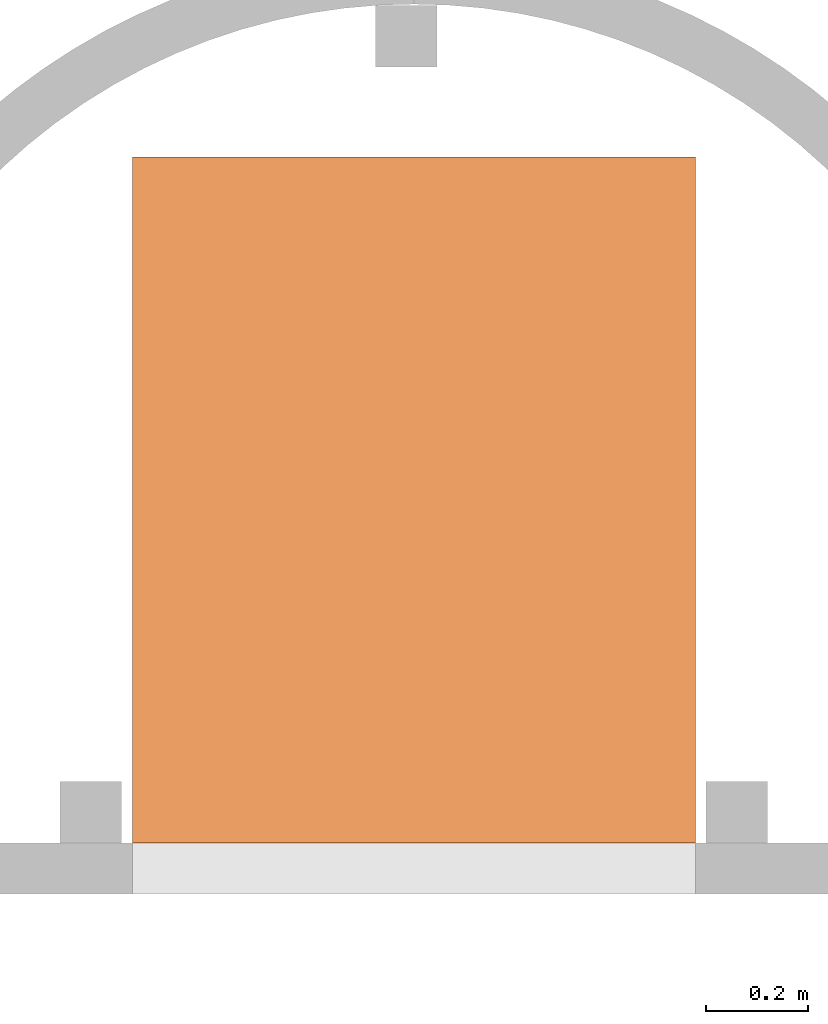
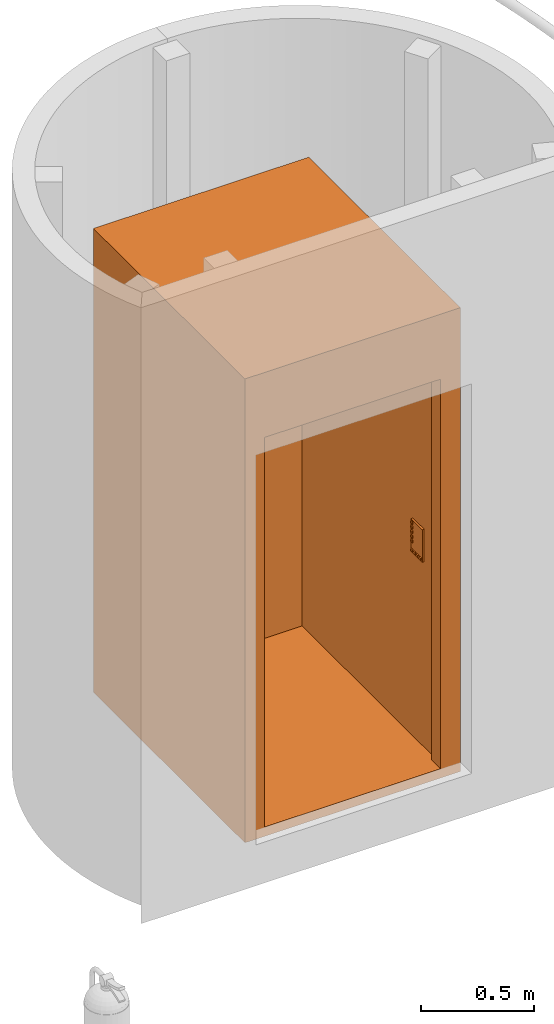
# One storey, part 6 of 6: 1 proxy.
"""IFC4 building model written with IfcOpenShell, lengths in millimetres."""

from ifc_helpers import new_model, entity, si_unit, converted_unit, derived_unit, direction, frame, origin_with_axes, place, context, subcontext, project, spatial, polygons, type_object, element, save


model = new_model("IFC4")

# Units and contexts
model_context = context("Model", 3, precision=0.01, world=origin_with_axes(), true_north=direction((0.0, 1.0)))
body_context = subcontext(model_context, "Body", "Model", "MODEL_VIEW")
ifc_project = project(units=[si_unit("LENGTHUNIT", "METRE", prefix="MILLI"), si_unit("AREAUNIT", "SQUARE_METRE"), si_unit("VOLUMEUNIT", "CUBIC_METRE"), converted_unit("PLANEANGLEUNIT", "DEGREE", entity("IfcPlaneAngleMeasure", 0.0174532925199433), si_unit("PLANEANGLEUNIT", "RADIAN"), dimensions=[0, 0, 0, 0, 0, 0, 0]), converted_unit("TIMEUNIT", "Year", entity("IfcTimeMeasure", 31557600.0), si_unit("TIMEUNIT", "SECOND"), dimensions=[0, 0, 1, 0, 0, 0, 0]), si_unit("MASSUNIT", "GRAM", prefix="KILO"), si_unit("THERMODYNAMICTEMPERATUREUNIT", "DEGREE_CELSIUS"), si_unit("LUMINOUSINTENSITYUNIT", "LUMEN"), si_unit("ENERGYUNIT", "JOULE", prefix="MEGA"), derived_unit("THERMALCONDUCTANCEUNIT", [(si_unit("POWERUNIT", "WATT"), 1), (si_unit("LENGTHUNIT", "METRE"), -1), (si_unit("THERMODYNAMICTEMPERATUREUNIT", "KELVIN"), -1)]), derived_unit("SPECIFICHEATCAPACITYUNIT", [(si_unit("ENERGYUNIT", "JOULE"), 1), (si_unit("MASSUNIT", "GRAM", prefix="KILO"), -1), (si_unit("THERMODYNAMICTEMPERATUREUNIT", "KELVIN"), -1)]), derived_unit("MASSDENSITYUNIT", [(si_unit("MASSUNIT", "GRAM", prefix="KILO"), 1), (si_unit("VOLUMEUNIT", "CUBIC_METRE"), -1)])], contexts=[model_context])

# Site, building, storey
site_placement = place(None, origin_with_axes())
site = spatial("IfcSite", under=ifc_project, at=site_placement, Name="Exteriér", CompositionType="ELEMENT")
building_placement = place(site_placement, origin_with_axes())
building = spatial("IfcBuilding", under=site, at=building_placement, Name="Univerzitní lezecké centrum", CompositionType="ELEMENT")
storey_placement = place(building_placement, origin_with_axes())
storey = spatial("IfcBuildingStorey", under=building, at=storey_placement, Name="1.NP", CompositionType="ELEMENT", Elevation=0.0)

# Proxy
building_element_proxy_type = type_object("IfcBuildingElementProxyType", Name="Výtah 24", PredefinedType="NOTDEFINED")
proxy_placement = place(storey_placement, frame((1499.835459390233, 3043.442993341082, 0.0), z_axis=(0.0, 0.0, 1.0), x_axis=(1.0, 0.0, 0.0)))
element("IfcBuildingElementProxy", 1, at=proxy_placement, inside=storey, type_object=building_element_proxy_type, Name="OV26", PredefinedType="NOTDEFINED", context=body_context, shape_type="Tessellation", body=[
    polygons([(1399.0, 270.0, 0.0), (1419.0, 270.0, 0.0), (1419.0, 1448.0, 0.0), (481.0000000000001, 1448.0, 0.0), (481.0000000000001, 270.0, 0.0), (501.0, 270.0, 0.0), (501.0, 190.0000000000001, 0.0), (401.0, 190.0000000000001, 0.0), (401.0, 1528.0, 0.0), (1499.0, 1528.0, 0.0), (1499.0, 190.0000000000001, 0.0), (1399.0, 190.0000000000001, 0.0), (481.0000000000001, 270.0, 2400.0), (1419.0, 270.0, 2400.0), (1399.0, 270.0, 2100.0), (501.0, 270.0, 2100.0), (1419.0, 1448.0, 2400.0), (481.0000000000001, 1448.0, 2400.0), (501.0, 190.0000000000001, 2100.0), (1399.0, 190.0000000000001, 2100.0), (1499.0, 190.0000000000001, 2400.0), (401.0, 190.0000000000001, 2400.0), (401.0, 1528.0, 2400.0), (1499.0, 1528.0, 2400.0)], [[[1, 2, 3, 4, 5, 6, 7, 8, 9, 10, 11, 12]], [[13, 14, 2, 1, 15, 16, 6, 5]], [[14, 17, 3, 2]], [[17, 18, 4, 3]], [[18, 13, 5, 4]], [[6, 16, 19, 7]], [[8, 7, 19, 20, 12, 11, 21, 22]], [[22, 23, 9, 8]], [[23, 24, 10, 9]], [[24, 21, 11, 10]], [[15, 1, 12, 20]], [[24, 23, 22, 21], [13, 18, 17, 14]], [[16, 15, 20, 19]]], closed=True),
    polygons([(401.0, 190.0, -50.0), (1499.0, 190.0, -50.0), (1499.0, 190.0, 0.0), (401.0, 190.0, 0.0), (401.0, 1528.0, -50.0), (1499.0, 1528.0, -50.0), (1499.0, 1528.0, 0.0), (401.0, 1528.0, 0.0)], [[[1, 2, 3, 4]], [[1, 5, 6, 2]], [[2, 6, 7, 3]], [[4, 3, 7, 8]], [[5, 1, 4, 8]], [[6, 5, 8, 7]]], closed=True),
    polygons([(401.0, 190.0, 2400.0), (1499.0, 190.0, 2400.0), (1499.0, 190.0, 2450.0), (401.0, 190.0, 2450.0), (401.0, 1528.0, 2400.0), (1499.0, 1528.0, 2400.0), (1499.0, 1528.0, 2450.0), (401.0, 1528.0, 2450.0)], [[[1, 2, 3, 4]], [[1, 5, 6, 2]], [[2, 6, 7, 3]], [[4, 3, 7, 8]], [[5, 1, 4, 8]], [[6, 5, 8, 7]]], closed=True),
    polygons([(1419.0, 370.0, 1000.0), (1419.0, 470.0000000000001, 1000.0), (1419.0, 470.0000000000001, 1175.0), (1419.0, 370.0, 1175.0), (1409.0, 370.0, 1000.0), (1409.0, 470.0000000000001, 1000.0), (1409.0, 470.0000000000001, 1175.0), (1409.0, 370.0, 1175.0)], [[[1, 2, 3, 4]], [[2, 1, 5, 6]], [[3, 2, 6, 7]], [[4, 3, 7, 8]], [[1, 4, 8, 5]], [[6, 5, 8, 7]]], closed=True),
    polygons([(1409.0, 450.4289321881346, 1005.428932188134), (1409.0, 450.4289321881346, 1019.571067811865), (1404.0, 451.8431457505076, 1018.156854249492), (1404.0, 451.8431457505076, 1006.843145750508), (1409.0, 464.5710678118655, 1005.428932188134), (1409.0, 464.5710678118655, 1019.571067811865), (1404.0, 463.1568542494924, 1018.156854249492), (1404.0, 463.1568542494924, 1006.843145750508)], [[[1, 2, 3, 4]], [[1, 5, 6, 2]], [[2, 6, 7, 3]], [[4, 3, 7, 8]], [[5, 1, 4, 8]], [[6, 5, 8, 7]]], closed=True),
    polygons([(1409.0, 425.4289321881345, 1005.428932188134), (1409.0, 425.4289321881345, 1019.571067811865), (1404.0, 426.8431457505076, 1018.156854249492), (1404.0, 426.8431457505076, 1006.843145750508), (1409.0, 439.5710678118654, 1005.428932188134), (1409.0, 439.5710678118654, 1019.571067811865), (1404.0, 438.1568542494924, 1018.156854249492), (1404.0, 438.1568542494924, 1006.843145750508)], [[[1, 2, 3, 4]], [[1, 5, 6, 2]], [[2, 6, 7, 3]], [[4, 3, 7, 8]], [[5, 1, 4, 8]], [[6, 5, 8, 7]]], closed=True),
    polygons([(1409.0, 400.4289321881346, 1005.428932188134), (1409.0, 400.4289321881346, 1019.571067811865), (1404.0, 401.8431457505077, 1018.156854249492), (1404.0, 401.8431457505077, 1006.843145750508), (1409.0, 414.5710678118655, 1005.428932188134), (1409.0, 414.5710678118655, 1019.571067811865), (1404.0, 413.1568542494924, 1018.156854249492), (1404.0, 413.1568542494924, 1006.843145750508)], [[[1, 2, 3, 4]], [[1, 5, 6, 2]], [[2, 6, 7, 3]], [[4, 3, 7, 8]], [[5, 1, 4, 8]], [[6, 5, 8, 7]]], closed=True),
    polygons([(1409.0, 375.4289321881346, 1005.428932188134), (1409.0, 375.4289321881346, 1019.571067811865), (1404.0, 376.8431457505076, 1018.156854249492), (1404.0, 376.8431457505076, 1006.843145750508), (1409.0, 389.5710678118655, 1005.428932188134), (1409.0, 389.5710678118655, 1019.571067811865), (1404.0, 388.1568542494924, 1018.156854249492), (1404.0, 388.1568542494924, 1006.843145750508)], [[[1, 2, 3, 4]], [[1, 5, 6, 2]], [[2, 6, 7, 3]], [[4, 3, 7, 8]], [[5, 1, 4, 8]], [[6, 5, 8, 7]]], closed=True),
    polygons([(1409.0, 450.4289321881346, 1155.428932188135), (1409.0, 450.4289321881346, 1169.571067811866), (1404.0, 451.8431457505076, 1168.156854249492), (1404.0, 451.8431457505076, 1156.843145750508), (1409.0, 464.5710678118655, 1155.428932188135), (1409.0, 464.5710678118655, 1169.571067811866), (1404.0, 463.1568542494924, 1168.156854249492), (1404.0, 463.1568542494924, 1156.843145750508)], [[[1, 2, 3, 4]], [[1, 5, 6, 2]], [[2, 6, 7, 3]], [[4, 3, 7, 8]], [[5, 1, 4, 8]], [[6, 5, 8, 7]]], closed=True),
    polygons([(1409.0, 450.4289321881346, 1130.428932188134), (1409.0, 450.4289321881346, 1144.571067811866), (1404.0, 451.8431457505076, 1143.156854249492), (1404.0, 451.8431457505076, 1131.843145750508), (1409.0, 464.5710678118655, 1130.428932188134), (1409.0, 464.5710678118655, 1144.571067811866), (1404.0, 463.1568542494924, 1143.156854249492), (1404.0, 463.1568542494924, 1131.843145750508)], [[[1, 2, 3, 4]], [[1, 5, 6, 2]], [[2, 6, 7, 3]], [[4, 3, 7, 8]], [[5, 1, 4, 8]], [[6, 5, 8, 7]]], closed=True),
    polygons([(1409.0, 450.4289321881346, 1105.428932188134), (1409.0, 450.4289321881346, 1119.571067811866), (1404.0, 451.8431457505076, 1118.156854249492), (1404.0, 451.8431457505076, 1106.843145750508), (1409.0, 464.5710678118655, 1105.428932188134), (1409.0, 464.5710678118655, 1119.571067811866), (1404.0, 463.1568542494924, 1118.156854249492), (1404.0, 463.1568542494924, 1106.843145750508)], [[[1, 2, 3, 4]], [[1, 5, 6, 2]], [[2, 6, 7, 3]], [[4, 3, 7, 8]], [[5, 1, 4, 8]], [[6, 5, 8, 7]]], closed=True),
    polygons([(1409.0, 450.4289321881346, 1080.428932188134), (1409.0, 450.4289321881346, 1094.571067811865), (1404.0, 451.8431457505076, 1093.156854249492), (1404.0, 451.8431457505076, 1081.843145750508), (1409.0, 464.5710678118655, 1080.428932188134), (1409.0, 464.5710678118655, 1094.571067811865), (1404.0, 463.1568542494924, 1093.156854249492), (1404.0, 463.1568542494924, 1081.843145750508)], [[[1, 2, 3, 4]], [[1, 5, 6, 2]], [[2, 6, 7, 3]], [[4, 3, 7, 8]], [[5, 1, 4, 8]], [[6, 5, 8, 7]]], closed=True),
    polygons([(1409.0, 450.4289321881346, 1055.428932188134), (1409.0, 450.4289321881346, 1069.571067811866), (1404.0, 451.8431457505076, 1068.156854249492), (1404.0, 451.8431457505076, 1056.843145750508), (1409.0, 464.5710678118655, 1055.428932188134), (1409.0, 464.5710678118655, 1069.571067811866), (1404.0, 463.1568542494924, 1068.156854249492), (1404.0, 463.1568542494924, 1056.843145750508)], [[[1, 2, 3, 4]], [[1, 5, 6, 2]], [[2, 6, 7, 3]], [[4, 3, 7, 8]], [[5, 1, 4, 8]], [[6, 5, 8, 7]]], closed=True),
])

save(model, "model.ifc")
